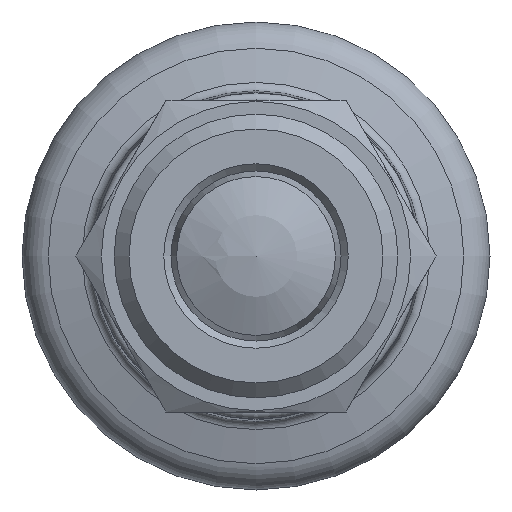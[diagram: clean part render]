
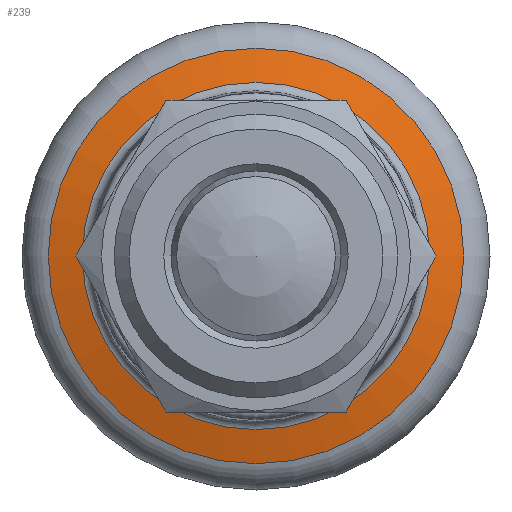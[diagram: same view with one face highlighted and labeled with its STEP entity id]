
A CAD part, front view. The second image highlights one B-rep face of the part: STEP entity #239.
In plain terms, the highlighted conical face has half-angle 75 degrees and reference radius 14.647 mm.
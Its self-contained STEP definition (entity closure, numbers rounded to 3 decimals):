
#239 = ADVANCED_FACE( '', ( #337, #338 ), #339, .T. );
#337 = FACE_BOUND( '', #440, .T. );
#338 = FACE_OUTER_BOUND( '', #441, .T. );
#339 = CONICAL_SURFACE( '', #442, 14.647, 1.309 );
#440 = EDGE_LOOP( '', ( #636 ) );
#441 = EDGE_LOOP( '', ( #637 ) );
#442 = AXIS2_PLACEMENT_3D( '', #638, #639, #640 );
#636 = ORIENTED_EDGE( '', *, *, #697, .F. );
#637 = ORIENTED_EDGE( '', *, *, #696, .T. );
#638 = CARTESIAN_POINT( '', ( 0., 76.504, 0. ) );
#639 = DIRECTION( '', ( 0., 1., 0. ) );
#640 = DIRECTION( '', ( 0., 0., 1. ) );
#696 = EDGE_CURVE( '', #781, #781, #782, .T. );
#697 = EDGE_CURVE( '', #783, #783, #784, .T. );
#781 = VERTEX_POINT( '', #1005 );
#782 = CIRCLE( '', #1006, 14.647 );
#783 = VERTEX_POINT( '', #1007 );
#784 = CIRCLE( '', #1008, 12.242 );
#1005 = CARTESIAN_POINT( '', ( 0., 76.504, -14.647 ) );
#1006 = AXIS2_PLACEMENT_3D( '', #1093, #1094, #1095 );
#1007 = CARTESIAN_POINT( '', ( 0., 75.859, -12.242 ) );
#1008 = AXIS2_PLACEMENT_3D( '', #1096, #1097, #1098 );
#1093 = CARTESIAN_POINT( '', ( 0., 76.504, 0. ) );
#1094 = DIRECTION( '', ( 0., -1., 0. ) );
#1095 = DIRECTION( '', ( 0., 0., -1. ) );
#1096 = CARTESIAN_POINT( '', ( 0., 75.859, 0. ) );
#1097 = DIRECTION( '', ( 0., -1., 0. ) );
#1098 = DIRECTION( '', ( 0., 0., -1. ) );
